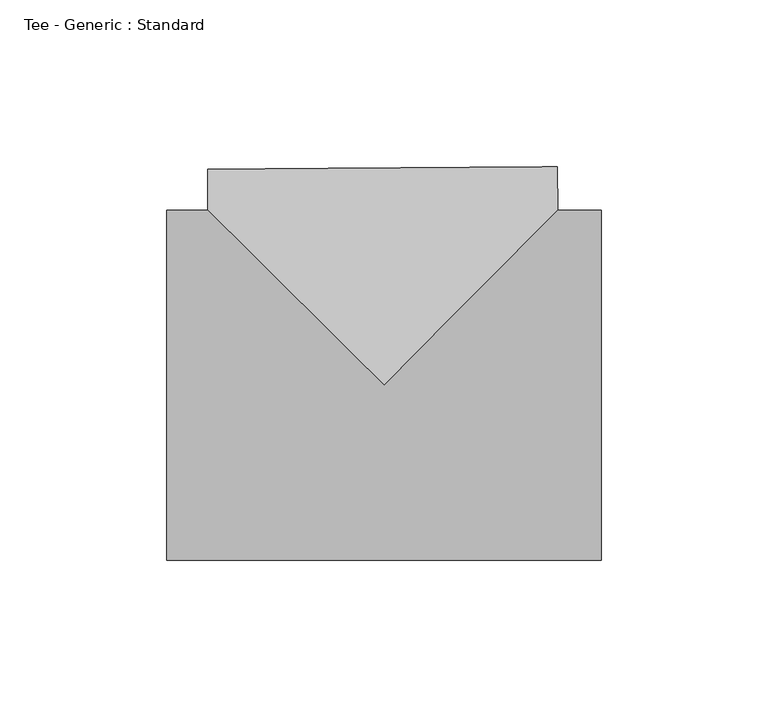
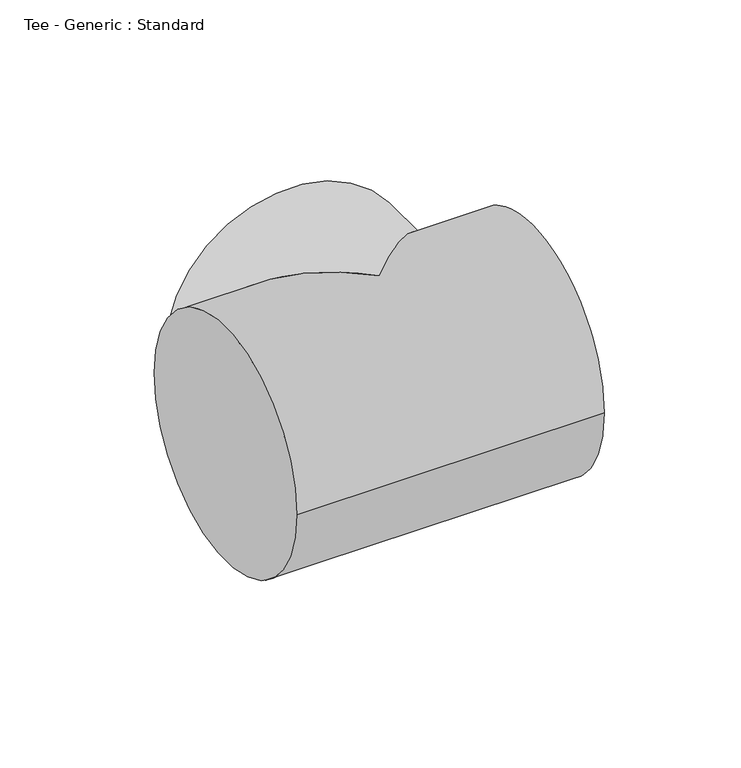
"""IFC4 building model written with IfcOpenShell, lengths in millimetres: pipe fitting geometry, Tee - Generic : Standard."""

from ifc_helpers import new_model, si_unit, frame, origin, place, context, project, spatial, circle_curve, ellipse_curve, source, transform, mapped, element, save
from ifc_brep_helpers import plane_surface, cylinder_surface, advanced_brep


def tee_generic_standard_f53002be(model_context):
    return source(origin(), model_context, "Body", "AdvancedBrep", [
        advanced_brep(
        [(-65.0875, 52.3875, 0.0), (-65.0875, -52.3875, 0.0), (65.0875, 52.3875, 0.0), (65.0875, -52.3875, 0.0), (52.01081, 52.3875, 0.0), (0.0, 0.0, 52.3875), (-52.7669182, 52.3875, 0.0), (0.0, 0.0, -52.3875), (-52.8558273, 64.707761, 0.0), (51.9164445, 65.4638496, 0.0)],
        [
            (0, 1, circle_curve(frame((-65.0875, 0.0, 0.0), z_axis=(-1.0, 0.0, 0.0), x_axis=(0.0, -1.0, 0.0)), 52.3875)),
            (1, 0, circle_curve(frame((-65.0875, 0.0, 0.0), z_axis=(-1.0, 0.0, 0.0), x_axis=(0.0, -1.0, 0.0)), 52.3875)),
            (2, 3, circle_curve(frame((65.0875, 0.0, 0.0), z_axis=(1.0, 0.0, 0.0), x_axis=(0.0, -1.0, 0.0)), 52.3875)),
            (3, 2, circle_curve(frame((65.0875, 0.0, 0.0), z_axis=(1.0, 0.0, 0.0), x_axis=(0.0, -1.0, 0.0)), 52.3875)),
            (1, 3),
            (2, 4),
            (4, 5, ellipse_curve(frame((0.0, 0.0, 0.0), z_axis=(0.7096535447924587, -0.7045508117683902, 0.0), x_axis=(-0.7045508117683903, -0.7096535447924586, 0.0)), 73.8212335, 52.3875)),
            (5, 6, ellipse_curve(frame((0.0, 0.0, 0.0), z_axis=(-0.7045508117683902, -0.7096535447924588, 0.0), x_axis=(-0.7096535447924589, 0.7045508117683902, 0.0)), 74.3558862, 52.3875)),
            (6, 0),
            (6, 7, ellipse_curve(frame((0.0, 0.0, 0.0), z_axis=(-0.7045508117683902, -0.7096535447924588, 0.0), x_axis=(-0.7096535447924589, 0.7045508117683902, 0.0)), 74.3558862, 52.3875)),
            (7, 4, ellipse_curve(frame((0.0, 0.0, 0.0), z_axis=(0.7096535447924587, -0.7045508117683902, 0.0), x_axis=(-0.7045508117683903, -0.7096535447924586, 0.0)), 73.8212335, 52.3875)),
            (8, 9, circle_curve(frame((-0.4696914, 65.0858053, 0.0), z_axis=(-0.007216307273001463, 0.9999739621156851, 0.0), x_axis=(0.9999739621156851, 0.007216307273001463, 0.0)), 52.3875)),
            (9, 8, circle_curve(frame((-0.4696914, 65.0858053, 0.0), z_axis=(-0.007216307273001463, 0.9999739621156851, 0.0), x_axis=(0.9999739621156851, 0.007216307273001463, 0.0)), 52.3875)),
            (8, 6),
            (4, 9),
        ],
        [
            plane_surface(frame((-65.0875, 0.0, 0.0), z_axis=(-1.0, 0.0, 0.0), x_axis=(0.0, 0.0, 1.0))),
            plane_surface(frame((65.0875, 0.0, 0.0), z_axis=(1.0, 0.0, 0.0), x_axis=(0.0, 0.0, 1.0))),
            cylinder_surface(frame((-65.0875, 0.0, 0.0), z_axis=(-1.0, 0.0, 0.0), x_axis=(0.0, -1.0, 0.0)), 52.3875),
            plane_surface(frame((-0.4696914, 65.0858053, 0.0), z_axis=(-0.007216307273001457, 0.9999739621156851, 0.0), x_axis=(0.0, 0.0, 1.0))),
            cylinder_surface(frame((0.0, 0.0, 0.0), z_axis=(0.007216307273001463, -0.9999739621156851, 0.0), x_axis=(0.9999739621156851, 0.007216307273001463, 0.0)), 52.3875),
        ],
        [
            (0, [[1, 2]]),
            (1, [[3, 4]]),
            (2, [[5, -3, 6, 7, 8, 9, -2]]),
            (2, [[-9, 10, 11, -6, -4, -5, -1]]),
            (3, [[12, 13]]),
            (4, [[14, -8, -7, 15, -12]]),
            (4, [[-15, -11, -10, -14, -13]]),
        ],
    ),
    ])


if __name__ == "__main__":
    model = new_model("IFC4")
    model_context = context("Model", 3, world=origin())
    ifc_project = project(units=[si_unit("LENGTHUNIT", "METRE", prefix="MILLI")], contexts=[model_context])
    site = spatial("IfcSite", under=ifc_project)
    building = spatial("IfcBuilding", under=site)
    placement = place(None, origin())
    tee_generic_standard_shape = tee_generic_standard_f53002be(model_context)
    element("IfcPipeFitting", 1, ObjectType="Tee - Generic : Standard", at=placement, inside=building, context=model_context, shape_type="MappedRepresentation", body=[
        mapped(tee_generic_standard_shape, transform((0.0, 0.0, 0.0), x_axis=(1.0, 0.0, 0.0), y_axis=(0.0, 1.0, 0.0), z_axis=(0.0, 0.0, 1.0))),
    ])
    save(model, "model.ifc")
